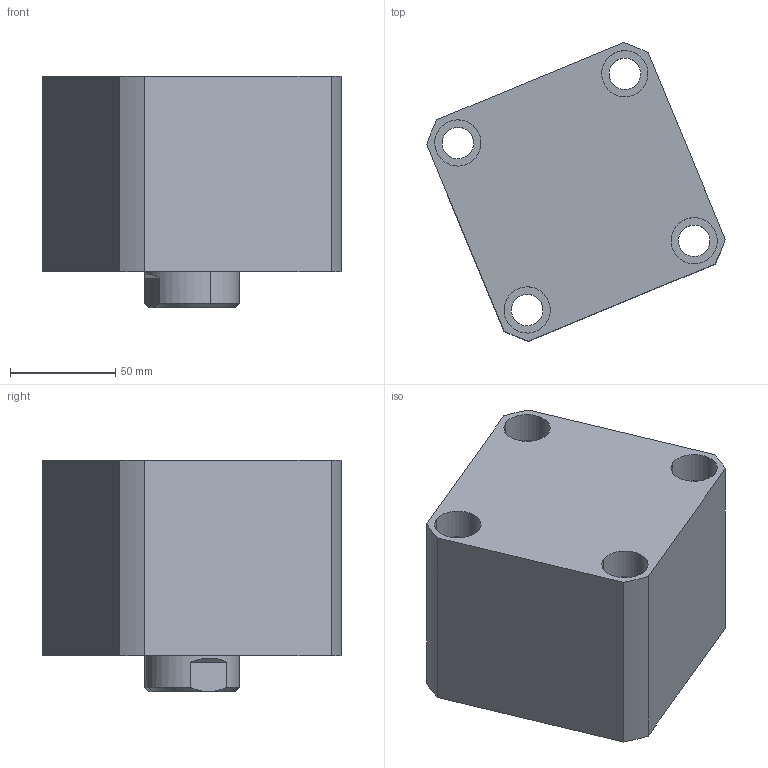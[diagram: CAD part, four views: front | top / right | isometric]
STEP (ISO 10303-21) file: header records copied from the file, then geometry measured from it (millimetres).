
FILE_DESCRIPTION (( 'STEP AP214' ), '1' );
FILE_NAME ('chtb-sd80x15n_asm.STEP', '2018-05-26T06:59:36', ( 'Windows' ), ( 'Microsoft' ), 'SwSTEP 2.0', 'SolidWorks 2015', '' );
FILE_SCHEMA (( 'AUTOMOTIVE_DESIGN' ));
Length unit declared in the file: millimetre
Products named in the file (4): CHTB-SD80X15NHSG; CHTB-SD80X15NBT; CHTB-SD80QG; chtb-sd80x15n_asm
Assembly tree (3 placements, depth 2):
  chtb-sd80x15n_asm
    CHTB-SD80QG
    CHTB-SD80X15NBT
    CHTB-SD80X15NHSG
Bounding box: 142.06 x 142.06 x 110 mm (x, y, z)
Volume: 1035846 mm3; surface area: 165104.6 mm2
Topology: 3 solids, 3 shells, 192 faces, 510 edges, 341 vertices
Faces by surface type: cylinder 103, plane 37, cone 20, torus 18, bspline 14
Entity records: 15144 total; most frequent: CARTESIAN_POINT 10435, ORIENTED_EDGE 1008, DIRECTION 889, EDGE_CURVE 504, AXIS2_PLACEMENT_3D 374, VERTEX_POINT 341, EDGE_LOOP 229, FACE_OUTER_BOUND 192
